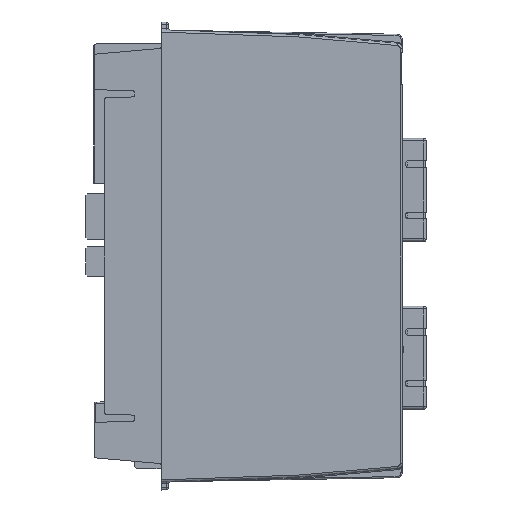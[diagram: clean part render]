
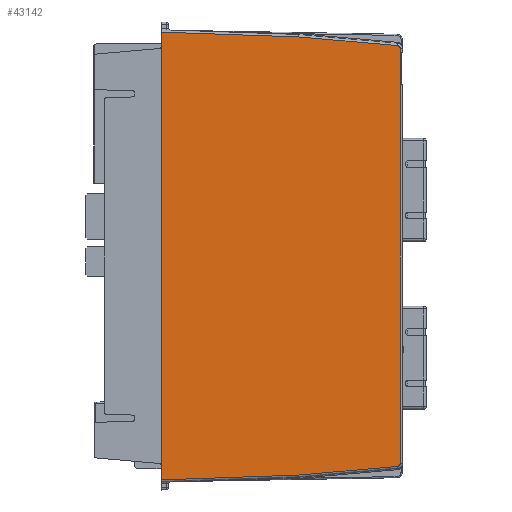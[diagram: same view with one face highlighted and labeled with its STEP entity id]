
A CAD part, left-side view. The second image highlights one B-rep face of the part: STEP entity #43142.
In plain terms, the highlighted planar face has unit normal (-1, -0.018, 0).
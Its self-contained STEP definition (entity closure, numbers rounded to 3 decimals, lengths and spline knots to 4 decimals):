
#1541=ELLIPSE('',#45586,0.0315,0.0315);
#1542=ELLIPSE('',#45587,0.0315,0.0315);
#3507=FACE_OUTER_BOUND('',#5832,.T.);
#5832=EDGE_LOOP('',(#29014,#29015,#29016,#29017,#29018,#29019,#29020,#29021,
#29022,#29023));
#8935=LINE('',#63996,#13259);
#8936=LINE('',#64000,#13260);
#8937=LINE('',#64002,#13261);
#8938=LINE('',#64004,#13262);
#8939=LINE('',#64006,#13263);
#8940=LINE('',#64008,#13264);
#8941=LINE('',#64012,#13265);
#8942=LINE('',#64015,#13266);
#13259=VECTOR('',#50951,39.3701);
#13260=VECTOR('',#50956,39.3701);
#13261=VECTOR('',#50957,39.3701);
#13262=VECTOR('',#50958,39.3701);
#13263=VECTOR('',#50959,39.3701);
#13264=VECTOR('',#50960,39.3701);
#13265=VECTOR('',#50963,39.3701);
#13266=VECTOR('',#50966,39.3701);
#17410=VERTEX_POINT('',#63993);
#17411=VERTEX_POINT('',#63995);
#17412=VERTEX_POINT('',#63999);
#17413=VERTEX_POINT('',#64001);
#17414=VERTEX_POINT('',#64003);
#17415=VERTEX_POINT('',#64005);
#17416=VERTEX_POINT('',#64007);
#17417=VERTEX_POINT('',#64009);
#17418=VERTEX_POINT('',#64011);
#17419=VERTEX_POINT('',#64013);
#21842=EDGE_CURVE('',#17411,#17410,#8935,.T.);
#21844=EDGE_CURVE('',#17410,#17412,#8936,.T.);
#21845=EDGE_CURVE('',#17413,#17412,#8937,.T.);
#21846=EDGE_CURVE('',#17413,#17414,#8938,.T.);
#21847=EDGE_CURVE('',#17414,#17415,#8939,.T.);
#21848=EDGE_CURVE('',#17415,#17416,#8940,.T.);
#21849=EDGE_CURVE('',#17416,#17417,#1541,.T.);
#21850=EDGE_CURVE('',#17417,#17418,#8941,.T.);
#21851=EDGE_CURVE('',#17418,#17419,#1542,.T.);
#21852=EDGE_CURVE('',#17419,#17411,#8942,.T.);
#29014=ORIENTED_EDGE('',*,*,#21842,.T.);
#29015=ORIENTED_EDGE('',*,*,#21844,.T.);
#29016=ORIENTED_EDGE('',*,*,#21845,.F.);
#29017=ORIENTED_EDGE('',*,*,#21846,.T.);
#29018=ORIENTED_EDGE('',*,*,#21847,.T.);
#29019=ORIENTED_EDGE('',*,*,#21848,.T.);
#29020=ORIENTED_EDGE('',*,*,#21849,.T.);
#29021=ORIENTED_EDGE('',*,*,#21850,.T.);
#29022=ORIENTED_EDGE('',*,*,#21851,.T.);
#29023=ORIENTED_EDGE('',*,*,#21852,.T.);
#39417=PLANE('',#45585);
#43142=ADVANCED_FACE('',(#3507),#39417,.T.);
#45585=AXIS2_PLACEMENT_3D('',#63998,#50954,#50955);
#45586=AXIS2_PLACEMENT_3D('',#64010,#50961,#50962);
#45587=AXIS2_PLACEMENT_3D('',#64014,#50964,#50965);
#50951=DIRECTION('',(-0.017,0.999,0.035));
#50954=DIRECTION('center_axis',(-1.,-0.017,0.));
#50955=DIRECTION('ref_axis',(-0.017,1.,0.));
#50956=DIRECTION('',(0.,0.,-1.));
#50957=DIRECTION('',(0.,0.,1.));
#50958=DIRECTION('',(0.,0.,-1.));
#50959=DIRECTION('',(0.017,-0.999,0.035));
#50960=DIRECTION('',(0.017,-0.996,0.087));
#50961=DIRECTION('center_axis',(-1.,-0.017,0.));
#50962=DIRECTION('ref_axis',(0.017,-1.,0.));
#50963=DIRECTION('',(0.,0.,1.));
#50964=DIRECTION('center_axis',(-1.,-0.017,0.));
#50965=DIRECTION('ref_axis',(0.017,-1.,0.));
#50966=DIRECTION('',(-0.017,0.996,0.087));
#63993=CARTESIAN_POINT('',(-0.0227,-0.8686,0.1083));
#63995=CARTESIAN_POINT('',(0.0007,-2.2063,0.0616));
#63996=CARTESIAN_POINT('',(-0.0282,-0.5512,0.1194));
#63998=CARTESIAN_POINT('Origin',(-0.0295,-0.4749,
-2.0669));
#63999=CARTESIAN_POINT('',(-0.0227,-0.8686,-0.0312));
#64000=CARTESIAN_POINT('',(-0.0227,-0.8686,0.128));
#64001=CARTESIAN_POINT('',(-0.0227,-0.8686,-4.1027));
#64002=CARTESIAN_POINT('',(-0.0227,-0.8686,-7.5932));
#64003=CARTESIAN_POINT('',(-0.0227,-0.8686,-4.2421));
#64004=CARTESIAN_POINT('',(-0.0227,-0.8686,0.128));
#64005=CARTESIAN_POINT('',(0.0007,-2.2063,-4.1954));
#64006=CARTESIAN_POINT('',(-0.0282,-0.5512,-4.2532));
#64007=CARTESIAN_POINT('',(0.0174,-3.163,-4.1117));
#64008=CARTESIAN_POINT('',(-0.0261,-0.6728,-4.3296));
#64009=CARTESIAN_POINT('',(0.0179,-3.1918,-4.0803));
#64010=CARTESIAN_POINT('Origin',(0.0173,-3.1603,-4.0803));
#64011=CARTESIAN_POINT('',(0.0179,-3.1918,-0.0535));
#64012=CARTESIAN_POINT('',(0.0179,-3.1918,-0.0535));
#64013=CARTESIAN_POINT('',(0.0174,-3.163,-0.0221));
#64014=CARTESIAN_POINT('Origin',(0.0173,-3.1603,-0.0535));
#64015=CARTESIAN_POINT('',(-0.0261,-0.6728,0.1957));
